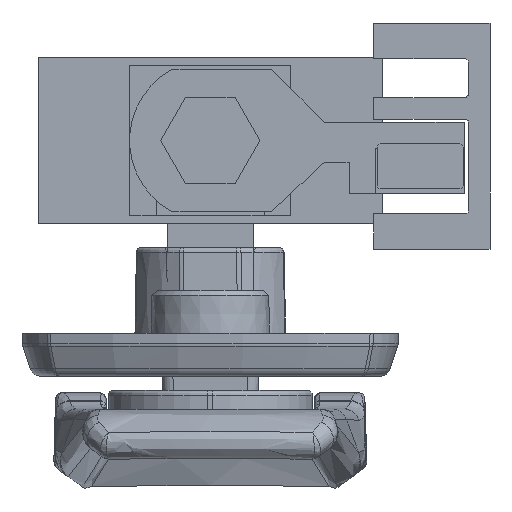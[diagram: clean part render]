
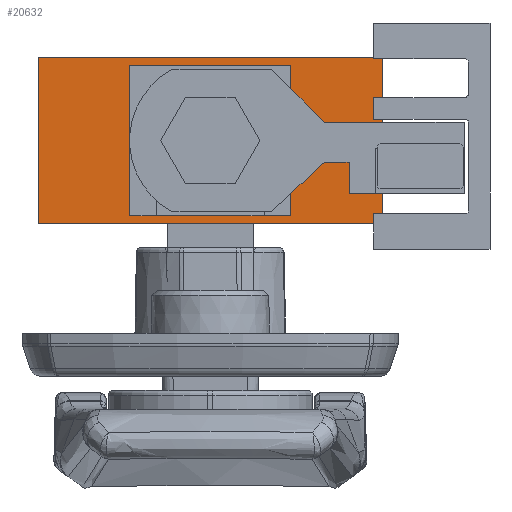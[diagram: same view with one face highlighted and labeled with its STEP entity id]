
A CAD part, front view. The second image highlights one B-rep face of the part: STEP entity #20632.
In plain terms, the highlighted planar face has unit normal (0, -1, 0).
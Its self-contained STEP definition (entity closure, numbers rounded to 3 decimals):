
#441 = DIRECTION ( 'NONE',  ( 1., 0., 0. ) ) ;
#587 = LINE ( 'NONE', #17895, #14528 ) ;
#1545 = DIRECTION ( 'NONE',  ( 0., 0., 1. ) ) ;
#1879 = LINE ( 'NONE', #21125, #21475 ) ;
#2678 = VERTEX_POINT ( 'NONE', #21240 ) ;
#3408 = EDGE_CURVE ( 'NONE', #14964, #30158, #23441, .T. ) ;
#3444 = CARTESIAN_POINT ( 'NONE',  ( 7., -199.25, 6.25 ) ) ;
#3466 = EDGE_CURVE ( 'NONE', #30158, #2678, #30198, .T. ) ;
#3839 = DIRECTION ( 'NONE',  ( 0., 1., 0. ) ) ;
#4493 = VERTEX_POINT ( 'NONE', #18594 ) ;
#5866 = VERTEX_POINT ( 'NONE', #26567 ) ;
#6085 = ORIENTED_EDGE ( 'NONE', *, *, #31086, .T. ) ;
#6271 = FACE_OUTER_BOUND ( 'NONE', #11451, .T. ) ;
#7988 = ORIENTED_EDGE ( 'NONE', *, *, #24775, .F. ) ;
#8145 = CARTESIAN_POINT ( 'NONE',  ( 16., -199.25, 7.75 ) ) ;
#8294 = LINE ( 'NONE', #3444, #26213 ) ;
#8772 = CARTESIAN_POINT ( 'NONE',  ( 16., -199.25, -7.75 ) ) ;
#8853 = FACE_BOUND ( 'NONE', #20434, .T. ) ;
#9062 = DIRECTION ( 'NONE',  ( 0., 0., -1. ) ) ;
#9586 = VERTEX_POINT ( 'NONE', #8772 ) ;
#10711 = ORIENTED_EDGE ( 'NONE', *, *, #3408, .F. ) ;
#11041 = VECTOR ( 'NONE', #19222, 1000. ) ;
#11336 = VECTOR ( 'NONE', #441, 1000. ) ;
#11377 = VECTOR ( 'NONE', #31101, 1000. ) ;
#11451 = EDGE_LOOP ( 'NONE', ( #6085, #14188, #28565, #17226 ) ) ;
#11785 = CARTESIAN_POINT ( 'NONE',  ( -16., -199.25, 7.75 ) ) ;
#11795 = CARTESIAN_POINT ( 'NONE',  ( -7., -199.25, -6.25 ) ) ;
#12400 = VERTEX_POINT ( 'NONE', #15210 ) ;
#12506 = ORIENTED_EDGE ( 'NONE', *, *, #23454, .F. ) ;
#14188 = ORIENTED_EDGE ( 'NONE', *, *, #22787, .F. ) ;
#14318 = ORIENTED_EDGE ( 'NONE', *, *, #3466, .F. ) ;
#14528 = VECTOR ( 'NONE', #25304, 1000. ) ;
#14964 = VERTEX_POINT ( 'NONE', #27947 ) ;
#15210 = CARTESIAN_POINT ( 'NONE',  ( -16., -199.25, 7.75 ) ) ;
#15325 = CARTESIAN_POINT ( 'NONE',  ( -7., -199.25, -6.25 ) ) ;
#15490 = EDGE_CURVE ( 'NONE', #12400, #4493, #24390, .T. ) ;
#15744 = LINE ( 'NONE', #8145, #25596 ) ;
#16111 = PLANE ( 'NONE',  #22715 ) ;
#16171 = VERTEX_POINT ( 'NONE', #25721 ) ;
#16683 = LINE ( 'NONE', #21222, #11377 ) ;
#16803 = EDGE_CURVE ( 'NONE', #12400, #16171, #16683, .T. ) ;
#17226 = ORIENTED_EDGE ( 'NONE', *, *, #16803, .T. ) ;
#17895 = CARTESIAN_POINT ( 'NONE',  ( -16., -199.25, -7.75 ) ) ;
#18594 = CARTESIAN_POINT ( 'NONE',  ( 16., -199.25, 7.75 ) ) ;
#19222 = DIRECTION ( 'NONE',  ( 1., 0., 0. ) ) ;
#20434 = EDGE_LOOP ( 'NONE', ( #10711, #7988, #12506, #14318 ) ) ;
#20632 = ADVANCED_FACE ( 'NONE', ( #8853, #6271 ), #16111, .F. ) ;
#21125 = CARTESIAN_POINT ( 'NONE',  ( 7., -199.25, 6.25 ) ) ;
#21222 = CARTESIAN_POINT ( 'NONE',  ( -16., -199.25, 7.75 ) ) ;
#21240 = CARTESIAN_POINT ( 'NONE',  ( 7., -199.25, -6.25 ) ) ;
#21440 = DIRECTION ( 'NONE',  ( 0., 0., 1. ) ) ;
#21475 = VECTOR ( 'NONE', #21440, 1000. ) ;
#22715 = AXIS2_PLACEMENT_3D ( 'NONE', #23695, #3839, #1545 ) ;
#22787 = EDGE_CURVE ( 'NONE', #4493, #9586, #15744, .T. ) ;
#23441 = LINE ( 'NONE', #11795, #29970 ) ;
#23454 = EDGE_CURVE ( 'NONE', #2678, #5866, #1879, .T. ) ;
#23695 = CARTESIAN_POINT ( 'NONE',  ( -16., -199.25, 7.75 ) ) ;
#24390 = LINE ( 'NONE', #11785, #11041 ) ;
#24775 = EDGE_CURVE ( 'NONE', #5866, #14964, #8294, .T. ) ;
#25304 = DIRECTION ( 'NONE',  ( 1., 0., 0. ) ) ;
#25596 = VECTOR ( 'NONE', #27873, 1000. ) ;
#25721 = CARTESIAN_POINT ( 'NONE',  ( -16., -199.25, -7.75 ) ) ;
#26213 = VECTOR ( 'NONE', #28027, 1000. ) ;
#26567 = CARTESIAN_POINT ( 'NONE',  ( 7., -199.25, 6.25 ) ) ;
#26747 = CARTESIAN_POINT ( 'NONE',  ( -7., -199.25, -6.25 ) ) ;
#27873 = DIRECTION ( 'NONE',  ( 0., 0., -1. ) ) ;
#27947 = CARTESIAN_POINT ( 'NONE',  ( -7., -199.25, 6.25 ) ) ;
#28027 = DIRECTION ( 'NONE',  ( -1., 0., 0. ) ) ;
#28565 = ORIENTED_EDGE ( 'NONE', *, *, #15490, .F. ) ;
#29970 = VECTOR ( 'NONE', #9062, 1000. ) ;
#30158 = VERTEX_POINT ( 'NONE', #26747 ) ;
#30198 = LINE ( 'NONE', #15325, #11336 ) ;
#31086 = EDGE_CURVE ( 'NONE', #16171, #9586, #587, .T. ) ;
#31101 = DIRECTION ( 'NONE',  ( 0., 0., -1. ) ) ;
